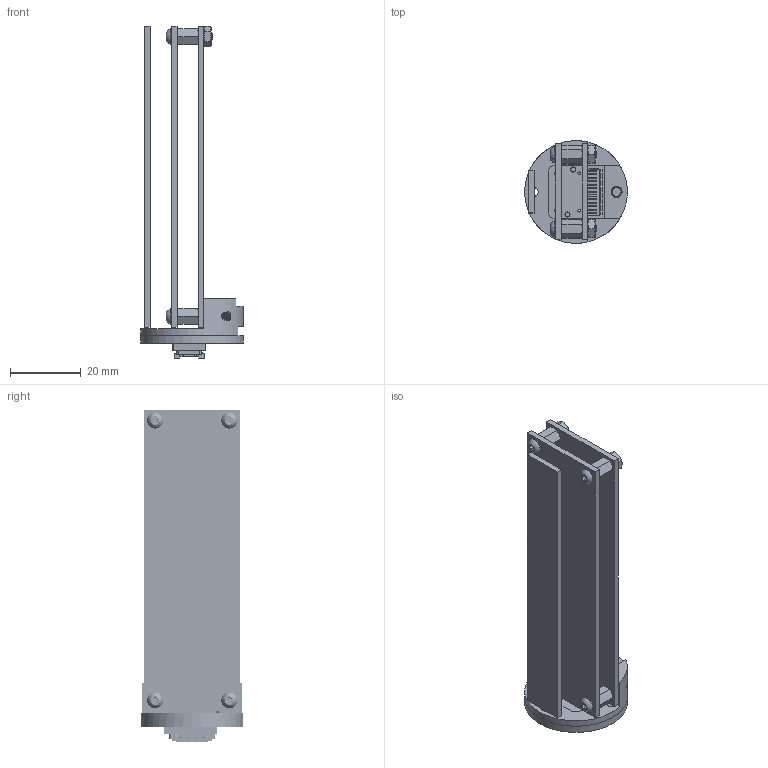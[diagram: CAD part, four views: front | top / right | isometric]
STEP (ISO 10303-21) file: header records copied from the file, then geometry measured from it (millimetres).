
FILE_DESCRIPTION(/* description */ (''),/* implementation_level */ '2;1');
FILE_NAME(/* name */ 'C:/Users/ANB/Downloads/PCB .step',/* time_stamp */ '2022-10-11T10:15:26+01:00',/* author */ (''),/* organization */ (''),/* preprocessor_version */ 'ST-DEVELOPER v19',/* originating_system */ 'Autodesk Translation Framework v11.7.0.108',/* authorisation */ '');
FILE_SCHEMA (('AUTOMOTIVE_DESIGN { 1 0 10303 214 3 1 1 }'));
Products named in the file (24): FS5FT5 Length True (v4~recovered); FS5 TDRS PCB; Component71; FS5-15-04.0-TH_socket; C-304-15; _CLM-113-02-L-D_socket (3); _C-13-02_pins (3); Interface PCB; FTMH-113-02-L-DH_body (1); FTMH-113-02-L-DH_pins1 (1); ICNCC - OC300; Fasteners; 93655A092_Male-Female Threaded Hex Standoff (3); 93655A092_Male-Female Threaded Hex Standoff (1) (2); 92095A458_Button Head Hex Drive Screw (2) (1); 92095A458_Button Head Hex Drive Screw (3); 92095A458_Button Head Hex Drive Screw (1) (2); 93655A092_Male-Female Threaded Hex Standoff (1) (1) (1); 92095A458_Button Head Hex Drive Screw (1) (1) (1); 93655A092_Male-Female Threaded Hex Standoff (2) (1); 90592A080_Steel Hex Nut (2); 90592A080_Steel Hex Nut (1) (1); Driver PCB; USART PCB
Assembly tree (23 placements, depth 4):
  FS5FT5 Length True (v4~recovered)
    FS5 TDRS PCB
      Component71
      FS5-15-04.0-TH_socket
        C-304-15
      _CLM-113-02-L-D_socket (3)
        _C-13-02_pins (3)
    Interface PCB
      FTMH-113-02-L-DH_body (1)
        FTMH-113-02-L-DH_pins1 (1)
    ICNCC - OC300
    Fasteners
      93655A092_Male-Female Threaded Hex Standoff (3)
      93655A092_Male-Female Threaded Hex Standoff (1) (2)
      92095A458_Button Head Hex Drive Screw (2) (1)
      92095A458_Button Head Hex Drive Screw (3)
      92095A458_Button Head Hex Drive Screw (1) (2)
      93655A092_Male-Female Threaded Hex Standoff (1) (1) (1)
      92095A458_Button Head Hex Drive Screw (1) (1) (1)
      93655A092_Male-Female Threaded Hex Standoff (2) (1)
      90592A080_Steel Hex Nut (2)
      90592A080_Steel Hex Nut (1) (1)
    Driver PCB
    USART PCB
Bounding box: 29 x 29 x 93.75 mm (x, y, z)
Volume: 13018 mm3; surface area: 19315.6 mm2
Topology: 47 solids, 47 shells, 4136 faces, 11599 edges, 7608 vertices
Faces by surface type: plane 3017, cylinder 933, cone 128, bspline 54, sphere 4
Full cylindrical faces by diameter (mm): 0.5 x4, 0.83 x4, 1.32 x1, 1.45 x2, 1.91 x4, 1.915 x92, 2.075 x16, 2.5 x94, 2.529 x5, 2.58 x9, 2.6 x14, 3.086 x4, 4.5 x4, 29 x2
Entity records: 160339 total; most frequent: CARTESIAN_POINT 53938, ORIENTED_EDGE 23198, DIRECTION 20275, EDGE_CURVE 11599, LINE 9185, VECTOR 9185, VERTEX_POINT 7608, AXIS2_PLACEMENT_3D 5545
